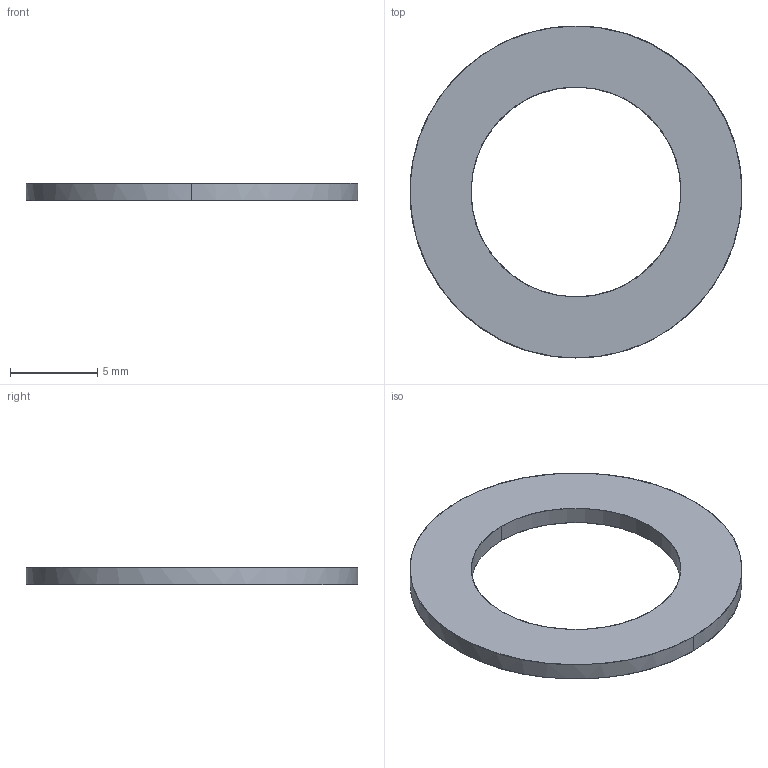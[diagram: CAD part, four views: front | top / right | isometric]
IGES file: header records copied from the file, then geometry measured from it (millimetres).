
Global section: file name: E:\UnigraphicsGraphicData\MISUMI_PRESS-PARTS\IGES\3d_sswa19-1.0_00813_r00.igs; native system: NX V5.0; preprocessor: UGS NX IGES V5.0; author: MISUMI; date: 20110105.163159; units: millimetre
Bounding box: 19 x 19 x 1 mm (x, y, z)
Surface area: 439.4 mm2 (no closed solid volume)
Topology: 0 solids, 0 shells, 6 faces, 48 edges, 48 vertices
Faces by surface type: bspline 6
